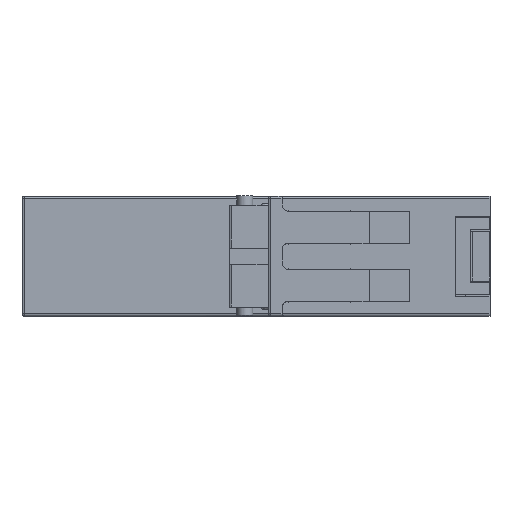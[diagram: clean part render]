
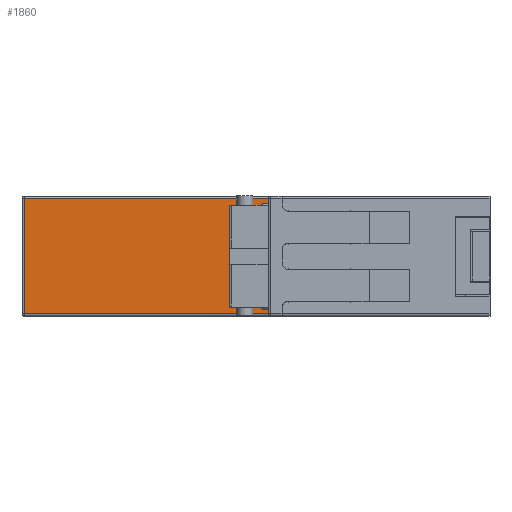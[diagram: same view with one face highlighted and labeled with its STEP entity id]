
A CAD part, left-side view. The second image highlights one B-rep face of the part: STEP entity #1860.
In plain terms, the highlighted planar face has unit normal (-1, 0.009, 0).
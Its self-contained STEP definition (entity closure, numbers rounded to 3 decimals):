
#1115=PLANE('',#17445);
#1860=ADVANCED_FACE('',(#2816),#1115,.T.);
#2816=FACE_OUTER_BOUND('',#3738,.T.);
#3738=EDGE_LOOP('',(#10694,#10695,#10696,#10697,#10698,#10699,#10700,#10701,
#10702,#10703));
#4966=LINE('',#40015,#6841);
#4978=LINE('',#40051,#6853);
#4986=LINE('',#40076,#6861);
#5025=LINE('',#40155,#6900);
#5029=LINE('',#40163,#6904);
#5072=LINE('',#40257,#6947);
#5609=LINE('',#41457,#7484);
#5610=LINE('',#41460,#7485);
#5611=LINE('',#41461,#7486);
#5612=LINE('',#41462,#7487);
#6841=VECTOR('',#19580,1.);
#6853=VECTOR('',#19604,1.);
#6861=VECTOR('',#19622,1.);
#6900=VECTOR('',#19669,1.);
#6904=VECTOR('',#19673,1.);
#6947=VECTOR('',#19740,1.);
#7484=VECTOR('',#20533,1.);
#7485=VECTOR('',#20534,1.);
#7486=VECTOR('',#20535,1.);
#7487=VECTOR('',#20536,1.);
#10694=ORIENTED_EDGE('',*,*,#15889,.T.);
#10695=ORIENTED_EDGE('',*,*,#15890,.T.);
#10696=ORIENTED_EDGE('',*,*,#15208,.F.);
#10697=ORIENTED_EDGE('',*,*,#15196,.F.);
#10698=ORIENTED_EDGE('',*,*,#15252,.T.);
#10699=ORIENTED_EDGE('',*,*,#15891,.F.);
#10700=ORIENTED_EDGE('',*,*,#15248,.T.);
#10701=ORIENTED_EDGE('',*,*,#15179,.T.);
#10702=ORIENTED_EDGE('',*,*,#15299,.T.);
#10703=ORIENTED_EDGE('',*,*,#15892,.T.);
#13351=VERTEX_POINT('',#40014);
#13352=VERTEX_POINT('',#40016);
#13369=VERTEX_POINT('',#40050);
#13370=VERTEX_POINT('',#40052);
#13382=VERTEX_POINT('',#40077);
#13418=VERTEX_POINT('',#40156);
#13421=VERTEX_POINT('',#40162);
#13460=VERTEX_POINT('',#40256);
#13960=VERTEX_POINT('',#41458);
#13961=VERTEX_POINT('',#41459);
#15179=EDGE_CURVE('',#13352,#13351,#4966,.T.);
#15196=EDGE_CURVE('',#13369,#13370,#4978,.T.);
#15208=EDGE_CURVE('',#13370,#13382,#4986,.T.);
#15248=EDGE_CURVE('',#13418,#13352,#5025,.T.);
#15252=EDGE_CURVE('',#13369,#13421,#5029,.T.);
#15299=EDGE_CURVE('',#13351,#13460,#5072,.T.);
#15889=EDGE_CURVE('',#13960,#13961,#5609,.T.);
#15890=EDGE_CURVE('',#13961,#13382,#5610,.T.);
#15891=EDGE_CURVE('',#13418,#13421,#5611,.T.);
#15892=EDGE_CURVE('',#13460,#13960,#5612,.T.);
#17445=AXIS2_PLACEMENT_3D('',#41463,#20537,#20538);
#19580=DIRECTION('',(-0.009,-1.,0.));
#19604=DIRECTION('',(-0.009,-1.,0.));
#19622=DIRECTION('',(0.,0.,-1.));
#19669=DIRECTION('',(0.,0.,1.));
#19673=DIRECTION('',(0.,0.,1.));
#19740=DIRECTION('',(0.,0.,1.));
#20533=DIRECTION('',(0.,0.,-1.));
#20534=DIRECTION('',(-0.009,-1.,0.));
#20535=DIRECTION('',(0.,0.,-1.));
#20536=DIRECTION('',(0.009,1.,0.));
#20537=DIRECTION('',(-1.,0.009,0.));
#20538=DIRECTION('',(-0.009,-1.,0.));
#40014=CARTESIAN_POINT('',(11.94,27.2,6.65));
#40015=CARTESIAN_POINT('',(12.001,34.204,6.65));
#40016=CARTESIAN_POINT('',(12.,34.1,6.65));
#40050=CARTESIAN_POINT('',(12.,34.1,-6.65));
#40051=CARTESIAN_POINT('',(12.001,34.204,-6.65));
#40052=CARTESIAN_POINT('',(11.94,27.2,-6.65));
#40076=CARTESIAN_POINT('',(11.94,27.2,-6.45));
#40077=CARTESIAN_POINT('',(11.94,27.2,-7.55));
#40155=CARTESIAN_POINT('',(12.,34.1,7.85));
#40156=CARTESIAN_POINT('',(12.,34.1,1.15));
#40162=CARTESIAN_POINT('',(12.,34.1,-1.15));
#40163=CARTESIAN_POINT('',(12.,34.1,7.85));
#40256=CARTESIAN_POINT('',(11.94,27.2,7.55));
#40257=CARTESIAN_POINT('',(11.94,27.2,6.45));
#41457=CARTESIAN_POINT('',(12.234,60.903,-7.85));
#41458=CARTESIAN_POINT('',(12.234,60.903,7.55));
#41459=CARTESIAN_POINT('',(12.234,60.903,-7.55));
#41460=CARTESIAN_POINT('',(11.937,26.9,-7.55));
#41461=CARTESIAN_POINT('',(12.,34.1,1.15));
#41462=CARTESIAN_POINT('',(12.236,61.2,7.55));
#41463=CARTESIAN_POINT('',(12.,34.1,7.85));
